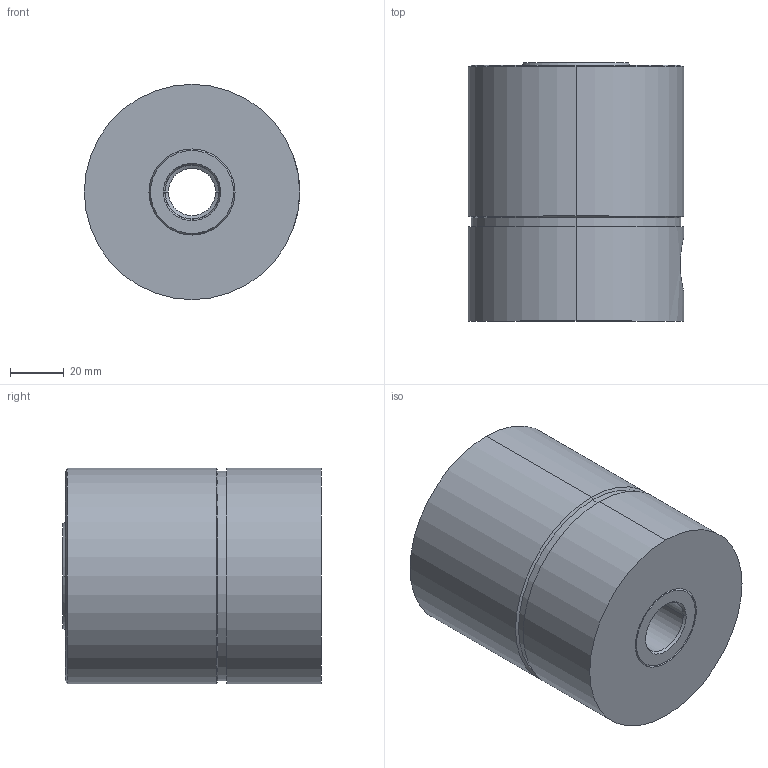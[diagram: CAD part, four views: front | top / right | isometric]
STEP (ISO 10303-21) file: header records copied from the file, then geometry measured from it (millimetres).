
FILE_DESCRIPTION (( 'STEP AP203' ), '1' );
FILE_NAME ('GERMA_Hohlkolbenzylinder_82-54-2-1.STEP', '2016-01-04T09:42:21', ( '' ), ( '' ), 'SwSTEP 2.0', 'SolidWorks 2015', '' );
FILE_SCHEMA (( 'CONFIG_CONTROL_DESIGN' ));
Length unit declared in the file: millimetre
Products named in the file (3): Gehaeuse 82-54-2_Geh„use; Kolben 82-54-X-1_Kolben; GERMA_Hohlkolbenzylinder_82-54-2-1
Assembly tree (2 placements, depth 2):
  GERMA_Hohlkolbenzylinder_82-54-2-1
    Gehaeuse 82-54-2_Geh„use
    Kolben 82-54-X-1_Kolben
Bounding box: 80 x 96 x 80 mm (x, y, z)
Volume: 416976.7 mm3; surface area: 74509.4 mm2
Topology: 2 solids, 2 shells, 72 faces, 148 edges, 90 vertices
Faces by surface type: cylinder 34, cone 22, plane 16
Entity records: 2295 total; most frequent: CARTESIAN_POINT 407, DIRECTION 382, ORIENTED_EDGE 288, AXIS2_PLACEMENT_3D 163, EDGE_CURVE 144, EDGE_LOOP 90, VERTEX_POINT 90, CIRCLE 86
